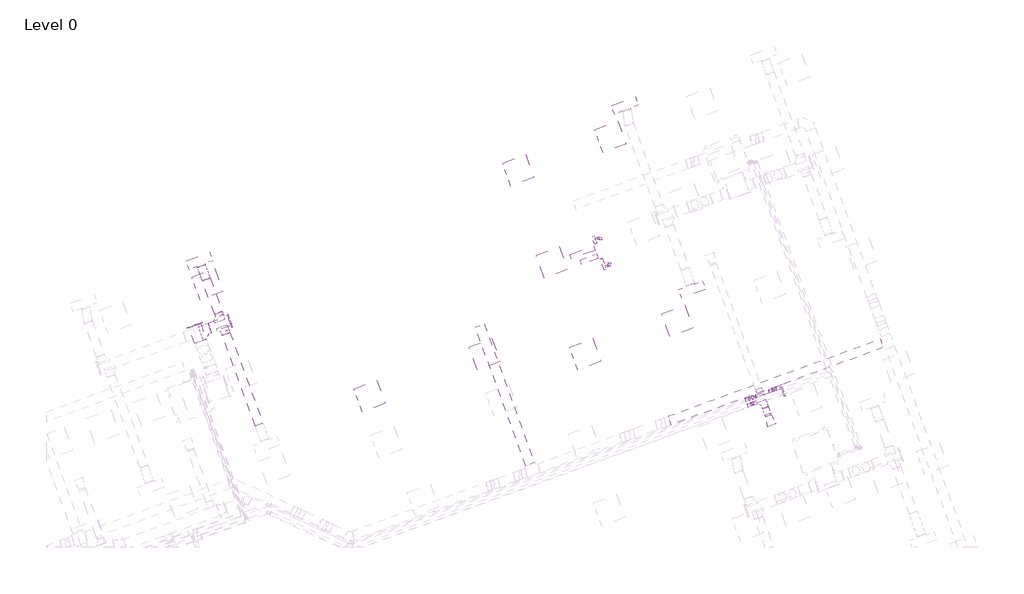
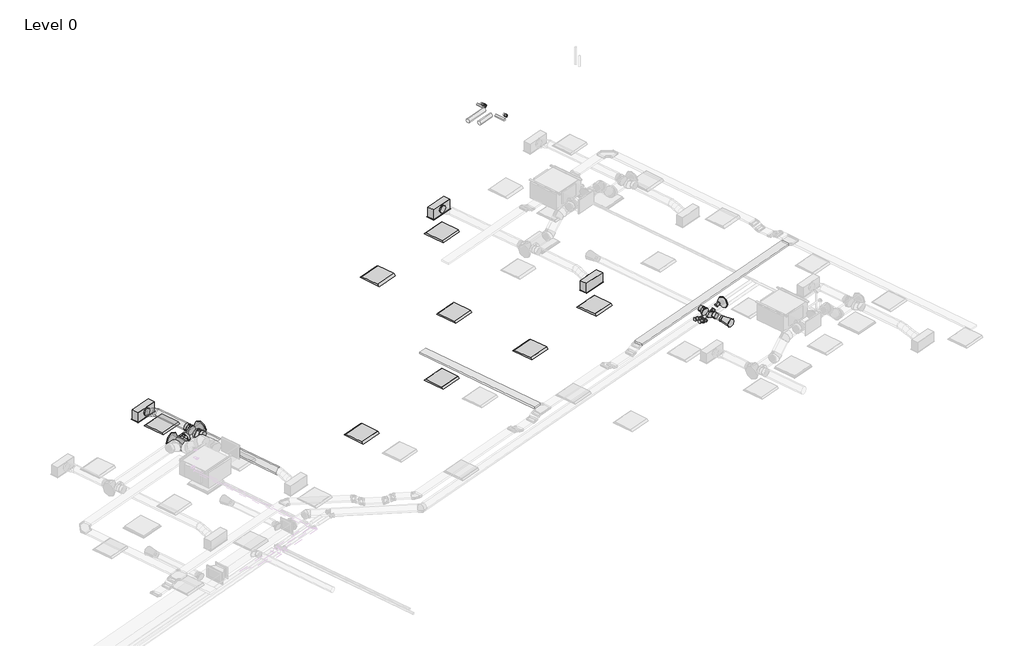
# One storey, part 31 of 34: 10 pipe segments, 8 duct fittings, 8 light fixtures, 8 pipe fittings, 6 duct segments, 4 air terminals, 2 cable carrier segments.
"""IFC4 building model written with IfcOpenShell, lengths in millimetres."""

from ifc_helpers import new_model, si_unit, point, frame, frame_2d, origin, place, context, project, spatial, polyline, circle_curve, ellipse_curve, trimmed, segment, composite_curve, outline, extrude, transform, mapped, element, save
from ifc_brep_helpers import plane_surface, cylinder_surface, advanced_brep
from components import air_terminal_0d1c431e, supply_diffuser_with_plenum_linear_slot_hosted_8c379eed, dw144_round_blank_end_standard_8c6f93a0, dw144_round_blank_end_standard_e3d0b58b, dw144_round_blank_end_standard_5beff049, dw144_round_shoe_branch_slip_joint1_standard_2_0dbb398a, dw144_round_shoe_branch_slip_joint1_standard_2_15a2edd8, dw144_round_shoe_branch_slip_joint1_standard_2_ce91aa06, dw144_round_shoe_branch_slip_joint1_standard_2_54bfcc3c, light_fixture_1c7c1157, light_fixture_b730b5ca, elbow_plain_abs_standard_192b4b37, elbow_threaded_gmi_standard_e52ea759

model = new_model("IFC4")

# Units and contexts
model_context = context("Model", 3, world=origin())
ifc_project = project(units=[si_unit("LENGTHUNIT", "METRE", prefix="MILLI")], contexts=[model_context])

# Site, building, storey
site = spatial("IfcSite", under=ifc_project)
building = spatial("IfcBuilding", under=site)
storey = spatial("IfcBuildingStorey", under=building, Name="Level 0", Elevation=0.0)

# Air terminals
placement = place(None, origin())
air_terminal_shape = air_terminal_0d1c431e(model_context)
element("IfcAirTerminal", 1, ObjectType="Supply_Bell_Mouth_Grille : Supply_Bell_Mouth_Grille", at=placement, inside=storey, context=model_context, shape_type="MappedRepresentation", body=[
    mapped(air_terminal_shape, transform((59441.0619748, 16002.7415496, 3050.0), x_axis=(0.3420201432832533, -0.9396926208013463, 0.0), y_axis=(0.9396926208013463, 0.3420201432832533, 0.0), z_axis=(0.0, 0.0, 1.0))),
])
supply_diffuser_with_plenum_linear_slot_hosted_shape = supply_diffuser_with_plenum_linear_slot_hosted_8c379eed(model_context)
element("IfcAirTerminal", 2, ObjectType="Supply Diffuser with Plenum - Linear Slot - Hosted : 24\" x 8\"-200 In Inlet  4-Slot", at=placement, inside=storey, context=model_context, shape_type="MappedRepresentation", body=[
    mapped(supply_diffuser_with_plenum_linear_slot_hosted_shape, transform((45507.8020498, 19798.6228469, 2800.0), x_axis=(-0.9396926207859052, -0.3420201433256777, 0.0), y_axis=(-0.3420201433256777, 0.9396926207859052, 0.0), z_axis=(0.0, 0.0, -1.0))),
])
element("IfcAirTerminal", 3, ObjectType="Supply Diffuser with Plenum - Linear Slot - Hosted : 24\" x 8\"-200 In Inlet  4-Slot", at=placement, inside=storey, context=model_context, shape_type="MappedRepresentation", body=[
    mapped(supply_diffuser_with_plenum_linear_slot_hosted_shape, transform((55928.2677465, 23610.3577605, 2800.0), x_axis=(-0.9396926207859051, -0.3420201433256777, 0.0), y_axis=(-0.3420201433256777, 0.9396926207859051, 0.0), z_axis=(0.0, 0.0, -1.0))),
])
element("IfcAirTerminal", 4, ObjectType="Supply Diffuser with Plenum - Linear Slot - Hosted : 24\" x 8\"-200 In Inlet  4-Slot", at=placement, inside=storey, context=model_context, shape_type="MappedRepresentation", body=[
    mapped(supply_diffuser_with_plenum_linear_slot_hosted_shape, transform((57569.9644345, 19099.8331807, 2800.0), x_axis=(0.939692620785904, 0.342020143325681, 0.0), y_axis=(0.342020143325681, -0.939692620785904, 0.0), z_axis=(0.0, 0.0, -1.0))),
])

# Cable carrier segments
element("IfcCableCarrierSegment", 5, ObjectType="Perforated Cable Tray", at=placement, inside=storey, context=model_context, shape_type="SweptSolid", body=[
    extrude(outline(polyline([(57064.256116, 15784.4127054), (56987.3015838, 15995.8435451), (62175.5159364, 17884.1991384), (62252.4704687, 17672.7682988), (57064.256116, 15784.4127054)])), frame((0.0, 0.0, 3223.9627355), z_axis=(0.0, 0.0, 1.0), x_axis=(1.0, 0.0, 0.0)), (0.0, 0.0, 1.0), 50.0),
])
element("IfcCableCarrierSegment", 6, ObjectType="Perforated Cable Tray", at=placement, inside=storey, context=model_context, shape_type="SweptSolid", body=[
    extrude(outline(polyline([(53712.3288317, 14857.0598339), (53500.897992, 14780.1053017), (52264.8463348, 18176.1293191), (52476.2771745, 18253.0838513), (53712.3288317, 14857.0598339)])), frame((0.0, 0.0, 3223.9627355), z_axis=(0.0, 0.0, 1.0), x_axis=(1.0, 0.0, 0.0)), (0.0, 0.0, 1.0), 50.0),
])

# Duct fittings
dw144_round_blank_end_standard_shape = dw144_round_blank_end_standard_8c6f93a0(model_context)
element("IfcDuctFitting", 7, ObjectType="DW144 Round Blank End : Standard", at=placement, inside=storey, context=model_context, shape_type="MappedRepresentation", body=[
    mapped(dw144_round_blank_end_standard_shape, transform((45393.8401716, 18213.3017532, 3072.2088531), x_axis=(-0.3420201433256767, 0.9396926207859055, 0.0), y_axis=(-0.9396926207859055, -0.3420201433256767, 0.0), z_axis=(0.0, 0.0, 1.0))),
])
dw144_round_blank_end_standard_2_shape = dw144_round_blank_end_standard_e3d0b58b(model_context)
element("IfcDuctFitting", 8, ObjectType="DW144 Round Blank End : Standard", at=placement, inside=storey, context=model_context, shape_type="MappedRepresentation", body=[
    mapped(dw144_round_blank_end_standard_2_shape, transform((46241.3458374, 18331.6052055, 3072.2088531), x_axis=(0.9396926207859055, 0.3420201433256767, 0.0), y_axis=(-0.3420201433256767, 0.9396926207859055, 0.0), z_axis=(0.0, 0.0, 1.0))),
])
dw144_round_blank_end_standard_3_shape = dw144_round_blank_end_standard_5beff049(model_context)
element("IfcDuctFitting", 9, ObjectType="DW144 Round Blank End : Standard", at=placement, inside=storey, context=model_context, shape_type="MappedRepresentation", body=[
    mapped(dw144_round_blank_end_standard_3_shape, transform((59783.5120284, 16619.7977036, 3050.0), x_axis=(0.9396926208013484, 0.34202014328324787, 0.0), y_axis=(-0.34202014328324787, 0.9396926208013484, 0.0), z_axis=(0.0, 0.0, 1.0))),
])
dw144_round_shoe_branch_slip_joint1_standard_2_shape = dw144_round_shoe_branch_slip_joint1_standard_2_0dbb398a(model_context)
element("IfcDuctFitting", 10, ObjectType="DW144 Round Shoe Branch - Slip Joint1 : Standard 2", at=placement, inside=storey, context=model_context, shape_type="MappedRepresentation", body=[
    mapped(dw144_round_shoe_branch_slip_joint1_standard_2_shape, transform((45595.9113981, 18096.6862814, 3072.2088531), x_axis=(0.9396926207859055, 0.3420201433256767, 0.0), y_axis=(0.3420201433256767, -0.9396926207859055, 0.0), z_axis=(0.0, 0.0, -1.0))),
])
dw144_round_shoe_branch_slip_joint1_standard_2_2_shape = dw144_round_shoe_branch_slip_joint1_standard_2_15a2edd8(model_context)
element("IfcDuctFitting", 11, ObjectType="DW144 Round Shoe Branch - Slip Joint1 : Standard 2", at=placement, inside=storey, context=model_context, shape_type="MappedRepresentation", body=[
    mapped(dw144_round_shoe_branch_slip_joint1_standard_2_2_shape, transform((46022.3482361, 18384.9188188, 3072.2088531), x_axis=(-0.3420201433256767, 0.9396926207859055, 0.0), y_axis=(0.9396926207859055, 0.3420201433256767, 0.0), z_axis=(0.0, 0.0, -1.0))),
])
element("IfcDuctFitting", 12, ObjectType="DW144 Round Shoe Branch - Slip Joint1 : Standard 2", at=placement, inside=storey, context=model_context, shape_type="MappedRepresentation", body=[
    mapped(dw144_round_shoe_branch_slip_joint1_standard_2_2_shape, transform((46107.8532719, 18149.9956636, 3072.2088531), x_axis=(0.3420201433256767, -0.9396926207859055, 0.0), y_axis=(0.9396926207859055, 0.3420201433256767, 0.0), z_axis=(0.0, 0.0, 1.0))),
])
dw144_round_shoe_branch_slip_joint1_standard_2_3_shape = dw144_round_shoe_branch_slip_joint1_standard_2_ce91aa06(model_context)
element("IfcDuctFitting", 13, ObjectType="DW144 Round Shoe Branch - Slip Joint1 : Standard 2", at=placement, inside=storey, context=model_context, shape_type="MappedRepresentation", body=[
    mapped(dw144_round_shoe_branch_slip_joint1_standard_2_3_shape, transform((59248.6009819, 16531.5237819, 3050.0), x_axis=(-0.34202014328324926, 0.9396926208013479, 0.0), y_axis=(0.9396926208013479, 0.34202014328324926, 0.0), z_axis=(0.0, 0.0, -1.0))),
])
dw144_round_shoe_branch_slip_joint1_standard_2_4_shape = dw144_round_shoe_branch_slip_joint1_standard_2_54bfcc3c(model_context)
element("IfcDuctFitting", 14, ObjectType="DW144 Round Shoe Branch - Slip Joint1 : Standard 2", at=placement, inside=storey, context=model_context, shape_type="MappedRepresentation", body=[
    mapped(dw144_round_shoe_branch_slip_joint1_standard_2_4_shape, transform((59317.0050106, 16343.5852578, 3050.0), x_axis=(0.3420201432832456, -0.9396926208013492, 0.0), y_axis=(-0.9396926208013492, -0.3420201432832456, 0.0), z_axis=(0.0, 0.0, -1.0))),
])

# Duct segments
element("IfcDuctSegment", 15, ObjectType="DW144 Segmented Bend / Shoe Branch", at=placement, inside=storey, context=model_context, shape_type="SweptSolid", body=[
    extrude(outline(composite_curve([segment(trimmed(circle_curve(frame_2d((0.0, 150.0)), 150.0), [point((150.0, 150.0))], [point((0.0, 0.0))], False, "CARTESIAN"), True, "CONTINUOUS"), segment(trimmed(circle_curve(frame_2d((0.0, 150.0)), 150.0), [point((0.0, 0.0))], [point((-150.0, 150.0))], False, "CARTESIAN"), True, "CONTINUOUS"), segment(trimmed(circle_curve(frame_2d((0.0, 150.0)), 150.0), [point((-150.0, 150.0))], [point((0.0, 300.0))], False, "CARTESIAN"), True, "CONTINUOUS"), segment(trimmed(circle_curve(frame_2d((0.0, 150.0)), 150.0), [point((0.0, 300.0))], [point((150.0, 150.0))], False, "CARTESIAN"), True, "CONTINUOUS")], self_intersect=False)), frame((45534.539793, 17826.7327206, 3222.2088531), z_axis=(-0.34202014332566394, 0.9396926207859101, 0.0), x_axis=(0.9396926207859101, 0.34202014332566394, 0.0)), (0.0, 0.0, 1.0), 411.3781721),
])
element("IfcDuctSegment", 16, ObjectType="DW144 Segmented Bend / Shoe Branch", at=placement, inside=storey, context=model_context, shape_type="SweptSolid", body=[
    extrude(outline(composite_curve([segment(trimmed(circle_curve(frame_2d((0.0, 125.0)), 125.0), [point((125.0, 125.0))], [point((0.0, 0.0))], False, "CARTESIAN"), True, "CONTINUOUS"), segment(trimmed(circle_curve(frame_2d((0.0, 125.0)), 125.0), [point((0.0, 0.0))], [point((-125.0, 125.0))], False, "CARTESIAN"), True, "CONTINUOUS"), segment(trimmed(circle_curve(frame_2d((0.0, 125.0)), 125.0), [point((-125.0, 125.0))], [point((0.0, 250.0))], False, "CARTESIAN"), True, "CONTINUOUS"), segment(trimmed(circle_curve(frame_2d((0.0, 125.0)), 125.0), [point((0.0, 250.0))], [point((125.0, 125.0))], False, "CARTESIAN"), True, "CONTINUOUS")], self_intersect=False)), frame((45760.3576068, 18156.5398065, 3197.2088531), z_axis=(0.9396926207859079, 0.3420201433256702, 0.0), x_axis=(0.3420201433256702, -0.9396926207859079, 0.0)), (0.0, 0.0, 1.0), 511.8569839),
])
element("IfcDuctSegment", 17, ObjectType="DW144 Segmented Bend / Shoe Branch", at=placement, inside=storey, context=model_context, shape_type="SweptSolid", body=[
    extrude(outline(composite_curve([segment(trimmed(circle_curve(frame_2d((0.0, 100.0)), 100.0), [point((100.0, 100.0))], [point((0.0, 0.0))], False, "CARTESIAN"), True, "CONTINUOUS"), segment(trimmed(circle_curve(frame_2d((0.0, 100.0)), 100.0), [point((0.0, 0.0))], [point((-100.0, 100.0))], False, "CARTESIAN"), True, "CONTINUOUS"), segment(trimmed(circle_curve(frame_2d((0.0, 100.0)), 100.0), [point((-100.0, 100.0))], [point((0.0, 200.0))], False, "CARTESIAN"), True, "CONTINUOUS"), segment(trimmed(circle_curve(frame_2d((0.0, 100.0)), 100.0), [point((0.0, 200.0))], [point((100.0, 100.0))], False, "CARTESIAN"), True, "CONTINUOUS")], self_intersect=False)), frame((45971.0452146, 18525.8727119, 3172.2088531), z_axis=(-0.34202014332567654, 0.9396926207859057, 0.0), x_axis=(0.9396926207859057, 0.34202014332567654, 0.0)), (0.0, 0.0, 1.0), 876.1305848),
])
element("IfcDuctSegment", 18, ObjectType="DW144 Segmented Bend / Shoe Branch", at=placement, inside=storey, context=model_context, shape_type="SweptSolid", body=[
    extrude(outline(composite_curve([segment(trimmed(circle_curve(frame_2d((0.0, -100.0)), 100.0), [point((-99.9999999, -100.0))], [point((0.0, 0.0))], False, "CARTESIAN"), True, "CONTINUOUS"), segment(trimmed(circle_curve(frame_2d((0.0, -100.0)), 100.0), [point((0.0, 0.0))], [point((100.0, -100.0))], False, "CARTESIAN"), True, "CONTINUOUS"), segment(trimmed(circle_curve(frame_2d((0.0, -100.0)), 100.0), [point((100.0, -100.0))], [point((0.0, -200.0))], False, "CARTESIAN"), True, "CONTINUOUS"), segment(trimmed(circle_curve(frame_2d((0.0, -100.0)), 100.0), [point((0.0, -200.0))], [point((-99.9999999, -100.0))], False, "CARTESIAN"), True, "CONTINUOUS")], self_intersect=False)), frame((46967.6472496, 15787.7311245, 2972.2088531), z_axis=(-0.34202014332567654, 0.9396926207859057, 0.0), x_axis=(0.9396926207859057, 0.34202014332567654, 0.0)), (0.0, 0.0, 1.0), 2363.8694152),
])
element("IfcDuctSegment", 19, ObjectType="DW144 Segmented Bend / Shoe Branch", at=placement, inside=storey, context=model_context, shape_type="SweptSolid", body=[
    extrude(outline(composite_curve([segment(trimmed(circle_curve(frame_2d((0.0, -75.0)), 75.0), [point((-74.9999999, -75.0))], [point((0.0, 0.0))], False, "CARTESIAN"), True, "CONTINUOUS"), segment(trimmed(circle_curve(frame_2d((0.0, -75.0)), 75.0), [point((0.0, 0.0))], [point((75.0, -75.0))], False, "CARTESIAN"), True, "CONTINUOUS"), segment(trimmed(circle_curve(frame_2d((0.0, -75.0)), 75.0), [point((75.0, -75.0))], [point((0.0, -150.0))], False, "CARTESIAN"), True, "CONTINUOUS"), segment(trimmed(circle_curve(frame_2d((0.0, -75.0)), 75.0), [point((0.0, -150.0))], [point((-74.9999999, -75.0))], False, "CARTESIAN"), True, "CONTINUOUS")], self_intersect=False)), frame((59441.0619748, 16002.7415496, 2975.0), z_axis=(-0.34202014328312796, 0.939692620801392, 0.0), x_axis=(0.939692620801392, 0.34202014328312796, 0.0)), (0.0, 0.0, 1.0), 212.7182981),
])
element("IfcDuctSegment", 20, ObjectType="Flex - Round", at=placement, inside=storey, context=model_context, shape_type="AdvancedBrep", body=[
    advanced_brep(
    [(45577.4216444, 19314.9641429, 3072.2088531), (45671.3909064, 19349.1661573, 2972.2088531), (45765.3601685, 19383.3681716, 3072.2088531), (45671.3909064, 19349.1661573, 3172.2088531), (45570.5064421, 19333.963505, 3072.2088531), (45668.9630014, 19355.8367715, 2972.2088531), (45758.4449663, 19402.3675336, 3072.2088531), (45659.988407, 19380.494267, 3172.2088531), (45457.9191842, 19643.2944537, 2954.4), (45551.8884463, 19677.496468, 3054.4), (45645.8577084, 19711.6984824, 2954.4), (45551.8884463, 19677.496468, 2854.4), (45546.9263376, 19398.7493096, 3053.8012198), (45652.7213669, 19400.4602956, 2959.5299419), (45734.8648618, 19467.1533382, 3053.8012198), (45629.0698325, 19465.4423522, 3148.0724978), (45517.6704143, 19479.1292983, 3013.3044266), (45626.2747484, 19473.1217826, 2922.9218599), (45705.6089384, 19547.533327, 3013.3044266), (45597.0046043, 19553.5408427, 3103.6869932), (45488.414491, 19559.5092871, 2972.8076333), (45594.2095202, 19561.2202731, 2878.5363553), (45676.3530151, 19627.9133157, 2972.8076333), (45570.5579858, 19626.2023297, 3067.0789113), (45464.8343865, 19624.2950917, 2954.4), (45563.2909458, 19646.1683582, 2854.4), (45652.7729106, 19692.6991203, 2954.4), (45554.3163513, 19670.8258538, 3054.4)],
    [
        (0, 1, circle_curve(frame((45671.3909064, 19349.1661573, 3072.2088531), z_axis=(0.34202014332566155, -0.9396926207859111, 0.0), x_axis=(-0.9396926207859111, -0.34202014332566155, 0.0)), 100.0)),
        (1, 2, circle_curve(frame((45671.3909064, 19349.1661573, 3072.2088531), z_axis=(0.34202014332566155, -0.9396926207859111, 0.0), x_axis=(-0.9396926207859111, -0.34202014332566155, 0.0)), 100.0)),
        (2, 3, circle_curve(frame((45671.3909064, 19349.1661573, 3072.2088531), z_axis=(0.34202014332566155, -0.9396926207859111, 0.0), x_axis=(-0.9396926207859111, -0.34202014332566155, 0.0)), 100.0)),
        (3, 0, circle_curve(frame((45671.3909064, 19349.1661573, 3072.2088531), z_axis=(0.34202014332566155, -0.9396926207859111, 0.0), x_axis=(-0.9396926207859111, -0.34202014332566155, 0.0)), 100.0)),
        (0, 4),
        (4, 5, ellipse_curve(frame((45664.4757042, 19368.1655193, 3072.2088531), z_axis=(0.3391139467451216, -0.9317079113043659, 0.13008496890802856), x_axis=(0.044491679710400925, -0.12223988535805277, -0.9915028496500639)), 100.8569971, 100.0)),
        (5, 1),
        (5, 6, ellipse_curve(frame((45664.4757042, 19368.1655193, 3072.2088531), z_axis=(0.3391139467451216, -0.9317079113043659, 0.13008496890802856), x_axis=(0.044491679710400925, -0.12223988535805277, -0.9915028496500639)), 100.8569971, 100.0)),
        (6, 2),
        (6, 7, ellipse_curve(frame((45664.4757042, 19368.1655193, 3072.2088531), z_axis=(0.3391139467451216, -0.9317079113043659, 0.13008496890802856), x_axis=(0.044491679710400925, -0.12223988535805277, -0.9915028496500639)), 100.8569971, 100.0)),
        (7, 3),
        (7, 4, ellipse_curve(frame((45664.4757042, 19368.1655193, 3072.2088531), z_axis=(0.3391139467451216, -0.9317079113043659, 0.13008496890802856), x_axis=(0.044491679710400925, -0.12223988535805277, -0.9915028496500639)), 100.8569971, 100.0)),
        (8, 9, circle_curve(frame((45551.8884463, 19677.496468, 2954.4), z_axis=(-0.34202014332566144, 0.9396926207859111, 0.0), x_axis=(-0.9396926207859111, -0.34202014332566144, 0.0)), 100.0)),
        (9, 10, circle_curve(frame((45551.8884463, 19677.496468, 2954.4), z_axis=(-0.34202014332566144, 0.9396926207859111, 0.0), x_axis=(-0.9396926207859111, -0.34202014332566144, 0.0)), 100.0)),
        (10, 11, circle_curve(frame((45551.8884463, 19677.496468, 2954.4), z_axis=(-0.34202014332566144, 0.9396926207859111, 0.0), x_axis=(-0.9396926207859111, -0.34202014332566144, 0.0)), 100.0)),
        (11, 8, circle_curve(frame((45551.8884463, 19677.496468, 2954.4), z_axis=(-0.34202014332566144, 0.9396926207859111, 0.0), x_axis=(-0.9396926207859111, -0.34202014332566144, 0.0)), 100.0)),
        (4, 12),
        (12, 13, ellipse_curve(frame((45640.8955997, 19432.9513239, 3053.8012198), z_axis=(0.32110349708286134, -0.8822246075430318, 0.34434326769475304), x_axis=(0.117772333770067, -0.32357682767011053, -0.9388438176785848)), 100.4120986, 100.0)),
        (13, 5),
        (13, 14, ellipse_curve(frame((45640.8955997, 19432.9513239, 3053.8012198), z_axis=(0.32110349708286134, -0.8822246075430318, 0.34434326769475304), x_axis=(0.117772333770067, -0.32357682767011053, -0.9388438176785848)), 100.4120986, 100.0)),
        (14, 6),
        (14, 15, ellipse_curve(frame((45640.8955997, 19432.9513239, 3053.8012198), z_axis=(0.32110349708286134, -0.8822246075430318, 0.34434326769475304), x_axis=(0.117772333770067, -0.32357682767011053, -0.9388438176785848)), 100.4120986, 100.0)),
        (15, 7),
        (15, 12, ellipse_curve(frame((45640.8955997, 19432.9513239, 3053.8012198), z_axis=(0.32110349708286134, -0.8822246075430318, 0.34434326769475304), x_axis=(0.117772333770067, -0.32357682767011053, -0.9388438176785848)), 100.4120986, 100.0)),
        (12, 16),
        (16, 17, circle_curve(frame((45611.6396764, 19513.3313126, 3013.3044266), z_axis=(0.30912658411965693, -0.8493183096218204, 0.4279008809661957), x_axis=(-0.9396926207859, -0.3420201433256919, 0.0)), 100.0)),
        (17, 13),
        (17, 18, circle_curve(frame((45611.6396764, 19513.3313126, 3013.3044266), z_axis=(0.30912658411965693, -0.8493183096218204, 0.4279008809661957), x_axis=(-0.9396926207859, -0.3420201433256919, 0.0)), 100.0)),
        (18, 14),
        (18, 19, circle_curve(frame((45611.6396764, 19513.3313126, 3013.3044266), z_axis=(0.30912658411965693, -0.8493183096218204, 0.4279008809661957), x_axis=(-0.9396926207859, -0.3420201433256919, 0.0)), 100.0)),
        (19, 15),
        (19, 16, circle_curve(frame((45611.6396764, 19513.3313126, 3013.3044266), z_axis=(0.30912658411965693, -0.8493183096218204, 0.4279008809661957), x_axis=(-0.9396926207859, -0.3420201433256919, 0.0)), 100.0)),
        (16, 20),
        (20, 21, ellipse_curve(frame((45582.383753, 19593.7113014, 2972.8076333), z_axis=(0.3211034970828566, -0.8822246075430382, 0.34434326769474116), x_axis=(-0.11777233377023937, 0.32357682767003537, 0.938843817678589)), 100.4120986, 100.0)),
        (21, 17),
        (21, 22, ellipse_curve(frame((45582.383753, 19593.7113014, 2972.8076333), z_axis=(0.3211034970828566, -0.8822246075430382, 0.34434326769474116), x_axis=(-0.11777233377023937, 0.32357682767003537, 0.938843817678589)), 100.4120986, 100.0)),
        (22, 18),
        (22, 23, ellipse_curve(frame((45582.383753, 19593.7113014, 2972.8076333), z_axis=(0.3211034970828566, -0.8822246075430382, 0.34434326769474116), x_axis=(-0.11777233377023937, 0.32357682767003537, 0.938843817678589)), 100.4120986, 100.0)),
        (23, 19),
        (23, 20, ellipse_curve(frame((45582.383753, 19593.7113014, 2972.8076333), z_axis=(0.3211034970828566, -0.8822246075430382, 0.34434326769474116), x_axis=(-0.11777233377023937, 0.32357682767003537, 0.938843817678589)), 100.4120986, 100.0)),
        (20, 24),
        (24, 25, ellipse_curve(frame((45558.8036486, 19658.497106, 2954.4), z_axis=(0.3391139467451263, -0.9317079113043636, 0.13008496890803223), x_axis=(-0.044491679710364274, 0.12223988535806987, 0.9915028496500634)), 100.8569971, 100.0)),
        (25, 21),
        (25, 26, ellipse_curve(frame((45558.8036486, 19658.497106, 2954.4), z_axis=(0.3391139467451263, -0.9317079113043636, 0.13008496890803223), x_axis=(-0.044491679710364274, 0.12223988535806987, 0.9915028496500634)), 100.8569971, 100.0)),
        (26, 22),
        (26, 27, ellipse_curve(frame((45558.8036486, 19658.497106, 2954.4), z_axis=(0.3391139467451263, -0.9317079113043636, 0.13008496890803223), x_axis=(-0.044491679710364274, 0.12223988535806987, 0.9915028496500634)), 100.8569971, 100.0)),
        (27, 23),
        (27, 24, ellipse_curve(frame((45558.8036486, 19658.497106, 2954.4), z_axis=(0.3391139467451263, -0.9317079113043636, 0.13008496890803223), x_axis=(-0.044491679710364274, 0.12223988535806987, 0.9915028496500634)), 100.8569971, 100.0)),
        (24, 8),
        (11, 25),
        (10, 26),
        (9, 27),
    ],
    [
        plane_surface(frame((45671.3909064, 19349.1661573, 3172.2088531), z_axis=(0.34202014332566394, -0.9396926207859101, 0.0), x_axis=(0.9396926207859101, 0.34202014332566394, 0.0))),
        cylinder_surface(frame((45671.3909064, 19349.1661573, 3072.2088531), z_axis=(0.34202014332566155, -0.9396926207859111, 0.0), x_axis=(-0.9396926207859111, -0.34202014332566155, 0.0)), 100.0),
        plane_surface(frame((45551.8884463, 19677.496468, 3054.4), z_axis=(-0.3420201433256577, 0.9396926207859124, 0.0), x_axis=(0.9396926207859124, 0.3420201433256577, 0.0))),
        cylinder_surface(frame((45664.4757042, 19368.1655193, 3072.2088531), z_axis=(0.33044474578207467, -0.9078894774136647, 0.2579592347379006), x_axis=(-0.9396926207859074, -0.3420201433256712, 0.0)), 100.0),
        cylinder_surface(frame((45640.8955997, 19432.9513239, 3053.8012198), z_axis=(0.30912658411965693, -0.8493183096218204, 0.4279008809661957), x_axis=(-0.9396926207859, -0.3420201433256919, 0.0)), 100.0),
        cylinder_surface(frame((45611.6396764, 19513.3313126, 3013.3044266), z_axis=(0.3091265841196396, -0.8493183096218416, 0.42790088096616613), x_axis=(-0.9396926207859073, -0.34202014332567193, 0.0)), 100.0),
        cylinder_surface(frame((45582.383753, 19593.7113014, 2972.8076333), z_axis=(0.3304447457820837, -0.9078894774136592, 0.25795923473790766), x_axis=(-0.9396926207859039, -0.342020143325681, 0.0)), 100.0),
        cylinder_surface(frame((45558.8036486, 19658.497106, 2954.4), z_axis=(0.34202014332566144, -0.9396926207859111, 0.0), x_axis=(-0.9396926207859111, -0.34202014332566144, 0.0)), 100.0),
    ],
    [
        (0, [[1, 2, 3, 4]]),
        (1, [[-1, 5, 6, 7]]),
        (1, [[-2, -7, 8, 9]]),
        (1, [[-3, -9, 10, 11]]),
        (1, [[-4, -11, 12, -5]]),
        (2, [[13, 14, 15, 16]]),
        (3, [[-6, 17, 18, 19]]),
        (3, [[-8, -19, 20, 21]]),
        (3, [[-10, -21, 22, 23]]),
        (3, [[-12, -23, 24, -17]]),
        (4, [[-18, 25, 26, 27]]),
        (4, [[-20, -27, 28, 29]]),
        (4, [[-22, -29, 30, 31]]),
        (4, [[-24, -31, 32, -25]]),
        (5, [[-26, 33, 34, 35]]),
        (5, [[-28, -35, 36, 37]]),
        (5, [[-30, -37, 38, 39]]),
        (5, [[-32, -39, 40, -33]]),
        (6, [[-34, 41, 42, 43]]),
        (6, [[-36, -43, 44, 45]]),
        (6, [[-38, -45, 46, 47]]),
        (6, [[-40, -47, 48, -41]]),
        (7, [[-42, 49, -16, 50]]),
        (7, [[-44, -50, -15, 51]]),
        (7, [[-46, -51, -14, 52]]),
        (7, [[-48, -52, -13, -49]]),
    ],
),
])

# Light fixtures
light_fixture_shape = light_fixture_1c7c1157(model_context)
element("IfcLightFixture", 21, ObjectType="ELEKTRA Plain Recessed Lighting Fixture : 24\" x 24\" - 230", at=placement, inside=storey, context=model_context, shape_type="MappedRepresentation", body=[
    mapped(light_fixture_shape, transform((45522.7179893, 18846.2918096, 2800.0), x_axis=(0.9396926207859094, 0.34202014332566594, 0.0), y_axis=(0.34202014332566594, -0.9396926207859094, 0.0), z_axis=(0.0, 0.0, -1.0))),
])
element("IfcLightFixture", 22, ObjectType="ELEKTRA Plain Recessed Lighting Fixture : 24\" x 24\" - 230", at=placement, inside=storey, context=model_context, shape_type="MappedRepresentation", body=[
    mapped(light_fixture_shape, transform((49493.6017213, 16100.1515081, 2800.0), x_axis=(0.9396926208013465, 0.342020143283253, 0.0), y_axis=(0.342020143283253, -0.9396926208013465, 0.0), z_axis=(0.0, 0.0, -1.0))),
])
element("IfcLightFixture", 23, ObjectType="ELEKTRA Plain Recessed Lighting Fixture : 24\" x 24\" - 230", at=placement, inside=storey, context=model_context, shape_type="MappedRepresentation", body=[
    mapped(light_fixture_shape, transform((55390.3625169, 22456.8162729, 2800.0), x_axis=(0.9396926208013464, 0.34202014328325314, 0.0), y_axis=(0.34202014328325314, -0.9396926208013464, 0.0), z_axis=(0.0, 0.0, -1.0))),
])
element("IfcLightFixture", 24, ObjectType="ELEKTRA Plain Recessed Lighting Fixture : 24\" x 24\" - 230", at=placement, inside=storey, context=model_context, shape_type="MappedRepresentation", body=[
    mapped(light_fixture_shape, transform((53135.100227, 21635.967929, 2800.0), x_axis=(0.9396926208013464, 0.34202014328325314, 0.0), y_axis=(0.34202014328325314, -0.9396926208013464, 0.0), z_axis=(0.0, 0.0, -1.0))),
])
element("IfcLightFixture", 25, ObjectType="ELEKTRA Plain Recessed Lighting Fixture : 24\" x 24\" - 230", at=placement, inside=storey, context=model_context, shape_type="MappedRepresentation", body=[
    mapped(light_fixture_shape, transform((54776.7969147, 17125.4433492, 2800.0), x_axis=(0.9396926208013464, 0.34202014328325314, 0.0), y_axis=(0.34202014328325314, -0.9396926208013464, 0.0), z_axis=(0.0, 0.0, -1.0))),
])
light_fixture_2_shape = light_fixture_b730b5ca(model_context)
element("IfcLightFixture", 26, ObjectType="ELEKTRA EM Recessed Lighting Fixture : 24\" x 24\" - 230", at=placement, inside=storey, context=model_context, shape_type="MappedRepresentation", body=[
    mapped(light_fixture_2_shape, transform((52312.6795837, 17126.211938, 2800.0), x_axis=(0.9396926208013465, 0.342020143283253, 0.0), y_axis=(0.342020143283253, -0.9396926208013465, 0.0), z_axis=(0.0, 0.0, -1.0))),
])
element("IfcLightFixture", 27, ObjectType="ELEKTRA EM Recessed Lighting Fixture : 24\" x 24\" - 230", at=placement, inside=storey, context=model_context, shape_type="MappedRepresentation", body=[
    mapped(light_fixture_2_shape, transform((57032.0592046, 17946.2916931, 2800.0), x_axis=(0.9396926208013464, 0.34202014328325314, 0.0), y_axis=(0.34202014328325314, -0.9396926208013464, 0.0), z_axis=(0.0, 0.0, -1.0))),
])
element("IfcLightFixture", 28, ObjectType="ELEKTRA EM Recessed Lighting Fixture : 24\" x 24\" - 230", at=placement, inside=storey, context=model_context, shape_type="MappedRepresentation", body=[
    mapped(light_fixture_2_shape, transform((53955.9485708, 19380.7056391, 2800.0), x_axis=(0.9396926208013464, 0.34202014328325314, 0.0), y_axis=(0.34202014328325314, -0.9396926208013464, 0.0), z_axis=(0.0, 0.0, -1.0))),
])

# Pipe fittings
elbow_plain_abs_standard_shape = elbow_plain_abs_standard_192b4b37(model_context)
element("IfcPipeFitting", 29, ObjectType="Elbow - Plain - ABS : Standard", at=placement, inside=storey, context=model_context, shape_type="MappedRepresentation", body=[
    mapped(elbow_plain_abs_standard_shape, transform((55561.4010167, 19697.4018191, 8137.881988), x_axis=(0.664463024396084, 0.2418447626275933, -0.7071067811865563), y_axis=(-0.34787963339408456, 0.9375183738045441, -0.0062497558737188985), z_axis=(0.6614141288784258, 0.2501407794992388, 0.7070791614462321))),
])
element("IfcPipeFitting", 30, ObjectType="Elbow - Plain - ABS : Standard", at=placement, inside=storey, context=model_context, shape_type="MappedRepresentation", body=[
    mapped(elbow_plain_abs_standard_shape, transform((55316.4258531, 20370.4655494, 8137.881988), x_axis=(0.6644630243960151, 0.24184476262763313, -0.7071067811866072), y_axis=(0.3361339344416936, -0.9417934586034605, -0.006249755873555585), z_axis=(-0.6674600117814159, -0.2335298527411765, -0.7070791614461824))),
])
elbow_threaded_gmi_standard_shape = elbow_threaded_gmi_standard_e52ea759(model_context)
element("IfcPipeFitting", 31, ObjectType="Elbow - Threaded - GMI : Standard", at=placement, inside=storey, context=model_context, shape_type="MappedRepresentation", body=[
    mapped(elbow_threaded_gmi_standard_shape, transform((58932.6532069, 16408.2765687, 3000.0), x_axis=(0.9396926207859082, 0.3420201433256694, 0.0), y_axis=(0.0, 0.0, -1.0000000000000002), z_axis=(-0.3420201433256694, 0.9396926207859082, 0.0))),
])
element("IfcPipeFitting", 32, ObjectType="Elbow - Threaded - GMI : Standard", at=placement, inside=storey, context=model_context, shape_type="MappedRepresentation", body=[
    mapped(elbow_threaded_gmi_standard_shape, transform((59095.4127432, 16467.5161953, 2900.0), x_axis=(-0.9396926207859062, -0.34202014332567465, 0.0), y_axis=(0.0, 0.0, 1.0), z_axis=(-0.34202014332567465, 0.9396926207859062, 0.0))),
])
element("IfcPipeFitting", 33, ObjectType="Elbow - Threaded - GMI : Standard", at=placement, inside=storey, context=model_context, shape_type="MappedRepresentation", body=[
    mapped(elbow_threaded_gmi_standard_shape, transform((59506.806633, 16617.2513258, 2900.0), x_axis=(-0.8137976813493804, -0.2961981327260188, -0.4999999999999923), y_axis=(-0.46984631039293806, -0.1710100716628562, 0.8660254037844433), z_axis=(-0.3420201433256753, 0.9396926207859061, 0.0))),
])
element("IfcPipeFitting", 34, ObjectType="Elbow - Threaded - GMI : Standard", at=placement, inside=storey, context=model_context, shape_type="MappedRepresentation", body=[
    mapped(elbow_threaded_gmi_standard_shape, transform((59669.5661693, 16676.4909523, 3000.0), x_axis=(0.8137976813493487, 0.2961981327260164, 0.5000000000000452), y_axis=(0.4698463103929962, 0.17101007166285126, -0.8660254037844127), z_axis=(-0.34202014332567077, 0.9396926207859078, 0.0))),
])
element("IfcPipeFitting", 35, ObjectType="Elbow - Threaded - GMI : Standard", at=placement, inside=storey, context=model_context, shape_type="MappedRepresentation", body=[
    mapped(elbow_threaded_gmi_standard_shape, transform((58981.4187988, 16274.2942063, 3000.0), x_axis=(0.939692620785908, 0.34202014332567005, 0.0), y_axis=(0.0, 0.0, -1.0000000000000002), z_axis=(-0.34202014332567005, 0.939692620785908, 0.0))),
])
element("IfcPipeFitting", 36, ObjectType="Elbow - Threaded - GMI : Standard", at=placement, inside=storey, context=model_context, shape_type="MappedRepresentation", body=[
    mapped(elbow_threaded_gmi_standard_shape, transform((59103.488451, 16318.7239262, 2925.0), x_axis=(-0.9396926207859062, -0.34202014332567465, 0.0), y_axis=(0.0, 0.0, 1.0), z_axis=(-0.34202014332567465, 0.9396926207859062, 0.0))),
])

# Pipe segments
element("IfcPipeSegment", 37, ObjectType="ABS - Solvent Welded", at=placement, inside=storey, context=model_context, shape_type="SweptSolid", body=[
    extrude(outline(composite_curve([segment(trimmed(circle_curve(frame_2d((0.0, -25.0)), 25.0), [point((11.4415384, -47.2281622))], [point((-22.2281623, -36.4415385))], False, "CARTESIAN"), True, "CONTINUOUS"), segment(trimmed(circle_curve(frame_2d((0.0, -25.0)), 25.0), [point((-22.2281623, -36.4415385))], [point((-11.4415384, -2.7718377))], False, "CARTESIAN"), True, "CONTINUOUS"), segment(trimmed(circle_curve(frame_2d((0.0, -25.0)), 25.0), [point((-11.4415384, -2.7718377))], [point((22.2281623, -13.5584615))], False, "CARTESIAN"), True, "CONTINUOUS"), segment(trimmed(circle_curve(frame_2d((0.0, -25.0)), 25.0), [point((22.2281623, -13.5584615))], [point((11.4415384, -47.2281622))], False, "CARTESIAN"), True, "CONTINUOUS")], self_intersect=False)), frame((55522.1976983, 19706.7876943, 8187.6916775), z_axis=(-0.6644630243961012, -0.24184476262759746, 0.7071067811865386), x_axis=(0.7473211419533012, -0.21503058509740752, 0.6287073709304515)), (0.0, 0.0, 1.0), 89.9928144),
])
element("IfcPipeSegment", 38, ObjectType="ABS - Solvent Welded", at=placement, inside=storey, context=model_context, shape_type="SweptSolid", body=[
    extrude(outline(composite_curve([segment(trimmed(circle_curve(frame_2d((0.0, 25.0)), 25.0), [point((-11.4415385, 47.2281622))], [point((22.2281622, 36.4415385))], False, "CARTESIAN"), True, "CONTINUOUS"), segment(trimmed(circle_curve(frame_2d((0.0, 25.0)), 25.0), [point((22.2281622, 36.4415385))], [point((11.4415384, 2.7718377))], False, "CARTESIAN"), True, "CONTINUOUS"), segment(trimmed(circle_curve(frame_2d((0.0, 25.0)), 25.0), [point((11.4415384, 2.7718377))], [point((-22.2281623, 13.5584616))], False, "CARTESIAN"), True, "CONTINUOUS"), segment(trimmed(circle_curve(frame_2d((0.0, 25.0)), 25.0), [point((-22.2281623, 13.5584616))], [point((-11.4415385, 47.2281622))], False, "CARTESIAN"), True, "CONTINUOUS")], self_intersect=False)), frame((55277.2225347, 20332.5419922, 8171.5108987), z_axis=(-0.6644630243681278, -0.24184476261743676, 0.7071067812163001), x_axis=(0.7473211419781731, -0.21503058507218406, 0.6287073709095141)), (0.0, 0.0, 1.0), 89.9928143),
])
element("IfcPipeSegment", 39, ObjectType="Carbon Steel - Threaded", at=placement, inside=storey, context=model_context, shape_type="SweptSolid", body=[
    extrude(outline(composite_curve([segment(trimmed(circle_curve(frame_2d((0.0, -57.45)), 57.45), [point((-57.4500001, -57.45))], [point((0.0, 0.0))], False, "CARTESIAN"), True, "CONTINUOUS"), segment(trimmed(circle_curve(frame_2d((0.0, -57.45)), 57.45), [point((0.0, 0.0))], [point((57.4499999, -57.45))], False, "CARTESIAN"), True, "CONTINUOUS"), segment(trimmed(circle_curve(frame_2d((0.0, -57.45)), 57.45), [point((57.4499999, -57.45))], [point((0.0, -114.9))], False, "CARTESIAN"), True, "CONTINUOUS"), segment(trimmed(circle_curve(frame_2d((0.0, -57.45)), 57.45), [point((0.0, -114.9))], [point((-57.4500001, -57.45))], False, "CARTESIAN"), True, "CONTINUOUS")], self_intersect=False)), frame((54845.3592801, 19768.8795543, 8077.5051175), z_axis=(0.9396926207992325, 0.3420201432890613, 0.0), x_axis=(0.3420201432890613, -0.9396926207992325, 0.0)), (0.0, 0.0, 1.0), 429.4391814),
])
element("IfcPipeSegment", 40, ObjectType="Carbon Steel - Threaded", at=placement, inside=storey, context=model_context, shape_type="SweptSolid", body=[
    extrude(outline(composite_curve([segment(trimmed(circle_curve(frame_2d((0.0, -57.45)), 57.45), [point((-57.45, -57.45))], [point((0.0, 0.0))], False, "CARTESIAN"), True, "CONTINUOUS"), segment(trimmed(circle_curve(frame_2d((0.0, -57.45)), 57.45), [point((0.0, 0.0))], [point((57.45, -57.45))], False, "CARTESIAN"), True, "CONTINUOUS"), segment(trimmed(circle_curve(frame_2d((0.0, -57.45)), 57.45), [point((57.45, -57.45))], [point((0.0, -114.9))], False, "CARTESIAN"), True, "CONTINUOUS"), segment(trimmed(circle_curve(frame_2d((0.0, -57.45)), 57.45), [point((0.0, -114.9))], [point((-57.45, -57.45))], False, "CARTESIAN"), True, "CONTINUOUS")], self_intersect=False)), frame((54598.6761106, 19901.8933519, 8147.5051175), z_axis=(0.9396926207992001, 0.3420201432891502, 0.0), x_axis=(0.3420201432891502, -0.9396926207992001, 0.0)), (0.0, 0.0, 1.0), 615.7521373),
])
element("IfcPipeSegment", 41, ObjectType="Carbon Steel - Threaded", at=placement, inside=storey, context=model_context, shape_type="SweptSolid", body=[
    extrude(outline(composite_curve([segment(trimmed(circle_curve(frame_2d((0.0, 30.4)), 30.4), [point((30.4, 30.4))], [point((0.0, 0.0))], False, "CARTESIAN"), True, "CONTINUOUS"), segment(trimmed(circle_curve(frame_2d((0.0, 30.4)), 30.4), [point((0.0, 0.0))], [point((-30.4, 30.4))], False, "CARTESIAN"), True, "CONTINUOUS"), segment(trimmed(circle_curve(frame_2d((0.0, 30.4)), 30.4), [point((-30.4, 30.4))], [point((0.0, 60.8))], False, "CARTESIAN"), True, "CONTINUOUS"), segment(trimmed(circle_curve(frame_2d((0.0, 30.4)), 30.4), [point((0.0, 60.8))], [point((30.4, 30.4))], False, "CARTESIAN"), True, "CONTINUOUS")], self_intersect=False)), frame((55446.4319481, 19583.263676, 8165.3551175), z_axis=(-0.3420201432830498, 0.9396926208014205, 0.0), x_axis=(0.9396926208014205, 0.3420201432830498, 0.0)), (0.0, 0.0, 1.0), 291.8008313),
])
element("IfcPipeSegment", 42, ObjectType="Carbon Steel - Threaded", at=placement, inside=storey, context=model_context, shape_type="SweptSolid", body=[
    extrude(outline(composite_curve([segment(trimmed(circle_curve(frame_2d((0.0, -30.4)), 30.4), [point((-30.4, -30.4))], [point((0.0, 0.0))], False, "CARTESIAN"), True, "CONTINUOUS"), segment(trimmed(circle_curve(frame_2d((0.0, -30.4)), 30.4), [point((0.0, 0.0))], [point((30.3999999, -30.4))], False, "CARTESIAN"), True, "CONTINUOUS"), segment(trimmed(circle_curve(frame_2d((0.0, -30.4)), 30.4), [point((30.3999999, -30.4))], [point((0.0, -60.8))], False, "CARTESIAN"), True, "CONTINUOUS"), segment(trimmed(circle_curve(frame_2d((0.0, -30.4)), 30.4), [point((0.0, -60.8))], [point((-30.4, -30.4))], False, "CARTESIAN"), True, "CONTINUOUS")], self_intersect=False)), frame((55214.6915731, 20219.9651236, 8174.5551175), z_axis=(-0.34202014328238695, 0.9396926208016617, 0.0), x_axis=(0.9396926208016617, 0.34202014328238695, 0.0)), (0.0, 0.0, 1.0), 189.7234709),
])
element("IfcPipeSegment", 43, ObjectType="Carbon Steel - Threaded", at=placement, inside=storey, context=model_context, shape_type="SweptSolid", body=[
    extrude(outline(composite_curve([segment(trimmed(circle_curve(frame_2d((0.0, -38.3)), 38.3), [point((22.5404974, -69.2647538))], [point((-30.9647537, -60.8404974))], False, "CARTESIAN"), True, "CONTINUOUS"), segment(trimmed(circle_curve(frame_2d((0.0, -38.3)), 38.3), [point((-30.9647537, -60.8404974))], [point((-22.5404973, -7.3352462))], False, "CARTESIAN"), True, "CONTINUOUS"), segment(trimmed(circle_curve(frame_2d((0.0, -38.3)), 38.3), [point((-22.5404973, -7.3352462))], [point((30.9647539, -15.7595026))], False, "CARTESIAN"), True, "CONTINUOUS"), segment(trimmed(circle_curve(frame_2d((0.0, -38.3)), 38.3), [point((30.9647539, -15.7595026))], [point((22.5404974, -69.2647538))], False, "CARTESIAN"), True, "CONTINUOUS")], self_intersect=False)), frame((59054.7228591, 16485.6582914, 2944.5206433), z_axis=(-0.8137976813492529, -0.2961981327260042, 0.5000000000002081), x_axis=(0.5811482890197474, -0.41477426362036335, 0.7001635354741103)), (0.0, 0.0, 1.0), 100.0),
])
element("IfcPipeSegment", 44, ObjectType="Carbon Steel - Threaded", at=placement, inside=storey, context=model_context, shape_type="SweptSolid", body=[
    extrude(outline(composite_curve([segment(trimmed(circle_curve(frame_2d((0.0, 38.3)), 38.3), [point((38.3, 38.3))], [point((0.0, 0.0))], False, "CARTESIAN"), True, "CONTINUOUS"), segment(trimmed(circle_curve(frame_2d((0.0, 38.3)), 38.3), [point((0.0, 0.0))], [point((-38.2999999, 38.3))], False, "CARTESIAN"), True, "CONTINUOUS"), segment(trimmed(circle_curve(frame_2d((0.0, 38.3)), 38.3), [point((-38.2999999, 38.3))], [point((0.0, 76.6))], False, "CARTESIAN"), True, "CONTINUOUS"), segment(trimmed(circle_curve(frame_2d((0.0, 38.3)), 38.3), [point((0.0, 76.6))], [point((38.3, 38.3))], False, "CARTESIAN"), True, "CONTINUOUS")], self_intersect=False)), frame((59142.3973743, 16484.6172025, 2938.3), z_axis=(0.9396926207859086, 0.34202014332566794, 0.0), x_axis=(0.34202014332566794, -0.9396926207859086, 0.0)), (0.0, 0.0, 1.0), 337.7962333),
])
element("IfcPipeSegment", 45, ObjectType="Carbon Steel - Threaded", at=placement, inside=storey, context=model_context, shape_type="SweptSolid", body=[
    extrude(outline(composite_curve([segment(trimmed(circle_curve(frame_2d((0.0, 38.3)), 38.3), [point((22.5404974, 7.3352461))], [point((-30.9647538, 15.7595025))], False, "CARTESIAN"), True, "CONTINUOUS"), segment(trimmed(circle_curve(frame_2d((0.0, 38.3)), 38.3), [point((-30.9647538, 15.7595025))], [point((-22.5404974, 69.2647538))], False, "CARTESIAN"), True, "CONTINUOUS"), segment(trimmed(circle_curve(frame_2d((0.0, 38.3)), 38.3), [point((-22.5404974, 69.2647538))], [point((30.9647538, 60.8404973))], False, "CARTESIAN"), True, "CONTINUOUS"), segment(trimmed(circle_curve(frame_2d((0.0, 38.3)), 38.3), [point((30.9647538, 60.8404973))], [point((22.5404974, 7.3352461))], False, "CARTESIAN"), True, "CONTINUOUS")], self_intersect=False)), frame((59547.4965171, 16599.1092297, 2944.5206433), z_axis=(0.8137976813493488, 0.29619813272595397, 0.5000000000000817), x_axis=(0.581148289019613, -0.4147742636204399, -0.7001635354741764)), (0.0, 0.0, 1.0), 100.0),
])
element("IfcPipeSegment", 46, ObjectType="Carbon Steel - Threaded", at=placement, inside=storey, context=model_context, shape_type="SweptSolid", body=[
    extrude(outline(composite_curve([segment(trimmed(circle_curve(frame_2d((1e-07, -38.3)), 38.3), [point((22.5404974, -69.2647538))], [point((-30.9647538, -60.8404974))], False, "CARTESIAN"), True, "CONTINUOUS"), segment(trimmed(circle_curve(frame_2d((1e-07, -38.3)), 38.3), [point((-30.9647538, -60.8404974))], [point((-22.5404973, -7.3352462))], False, "CARTESIAN"), True, "CONTINUOUS"), segment(trimmed(circle_curve(frame_2d((1e-07, -38.3)), 38.3), [point((-22.5404973, -7.3352462))], [point((30.9647539, -15.7595026))], False, "CARTESIAN"), True, "CONTINUOUS"), segment(trimmed(circle_curve(frame_2d((1e-07, -38.3)), 38.3), [point((30.9647539, -15.7595026))], [point((22.5404974, -69.2647538))], False, "CARTESIAN"), True, "CONTINUOUS")], self_intersect=False)), frame((59062.7985669, 16336.8660223, 2969.5206433), z_axis=(-0.8137976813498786, -0.2961981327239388, 0.5000000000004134), x_axis=(0.5811482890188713, -0.41477426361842, 0.7001635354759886)), (0.0, 0.0, 1.0), 50.0),
])

save(model, "model.ifc")
